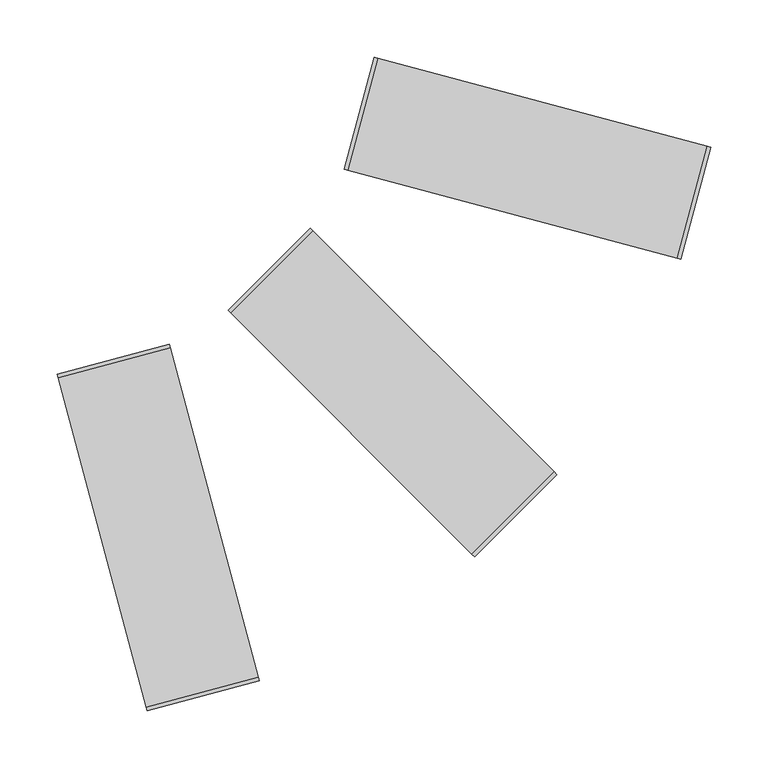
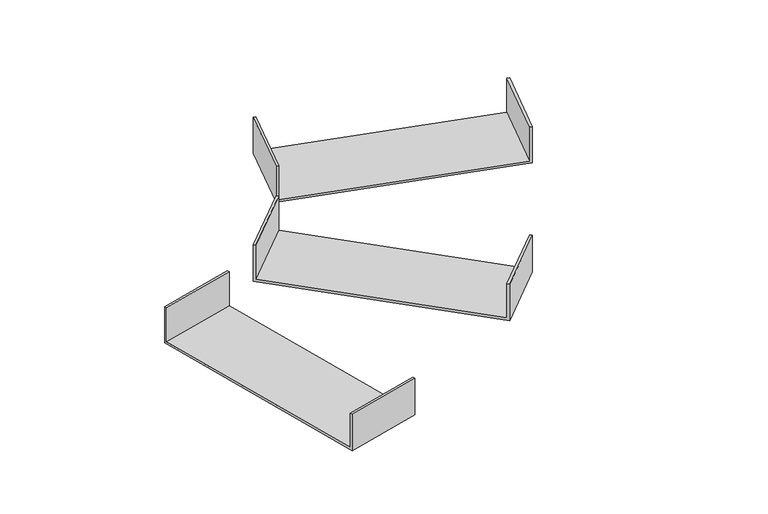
"""IFC4 building model written with IfcOpenShell, lengths in millimetres: cable carrier fitting geometry, Bend-Horizontal-Cablofil-Wire_Mesh_Cable_Tray-Cablobend : Cablobend."""

from ifc_helpers import new_model, si_unit, frame, origin, place, context, project, spatial, polyline, outline, extrude, source, transform, mapped, element, save


def cable_carrier_fitting_e2580871(model_context):
    return source(origin(), model_context, "Body", "SweptSolid", [
        extrude(outline(polyline([(-50.8, 0.0), (0.0, 0.0), (0.0, -304.8), (-50.8, -304.8), (-50.8, -301.625), (-3.175, -301.625), (-3.175, -3.175), (-50.8, -3.175), (-50.8, 0.0)])), frame((-277.5948776, 205.7528286, -25.4), z_axis=(0.70710678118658, 0.7071067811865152, 0.0), x_axis=(0.0, 0.0, -1.0)), (0.0, 0.0, 1.0), 101.6),
        extrude(outline(polyline([(-50.8, 0.0), (0.0, 0.0), (0.0, -304.8), (-50.8, -304.8), (-50.8, -301.625), (-3.175, -301.625), (-3.175, -3.175), (-50.8, -3.175), (-50.8, 0.0)])), frame((-427.380987, 149.6378007, -25.4), z_axis=(0.9659258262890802, 0.25881904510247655, 0.0), x_axis=(0.0, 0.0, -1.0)), (0.0, 0.0, 1.0), 101.6),
        extrude(outline(polyline([(-50.8, 0.0), (0.0, 0.0), (0.0, -304.8), (-50.8, -304.8), (-50.8, -301.625), (-3.175, -301.625), (-3.175, -3.175), (-50.8, -3.175), (-50.8, 0.0)])), frame((-175.9338156, 329.2429231, -25.4), z_axis=(0.2588190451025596, 0.965925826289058, 0.0), x_axis=(0.0, 0.0, -1.0)), (0.0, 0.0, 1.0), 101.6),
    ])


if __name__ == "__main__":
    model = new_model("IFC4")
    model_context = context("Model", 3, world=origin())
    ifc_project = project(units=[si_unit("LENGTHUNIT", "METRE", prefix="MILLI")], contexts=[model_context])
    site = spatial("IfcSite", under=ifc_project)
    building = spatial("IfcBuilding", under=site)
    placement = place(None, origin())
    cable_carrier_fitting_shape = cable_carrier_fitting_e2580871(model_context)
    element("IfcCableCarrierFitting", 1, ObjectType="Bend-Horizontal-Cablofil-Wire_Mesh_Cable_Tray-Cablobend : Cablobend", at=placement, inside=building, context=model_context, shape_type="MappedRepresentation", body=[
        mapped(cable_carrier_fitting_shape, transform((0.0, 0.0, 0.0), x_axis=(1.0, 0.0, 0.0), y_axis=(0.0, 1.0, 0.0), z_axis=(0.0, 0.0, 1.0))),
    ])
    save(model, "model.ifc")
